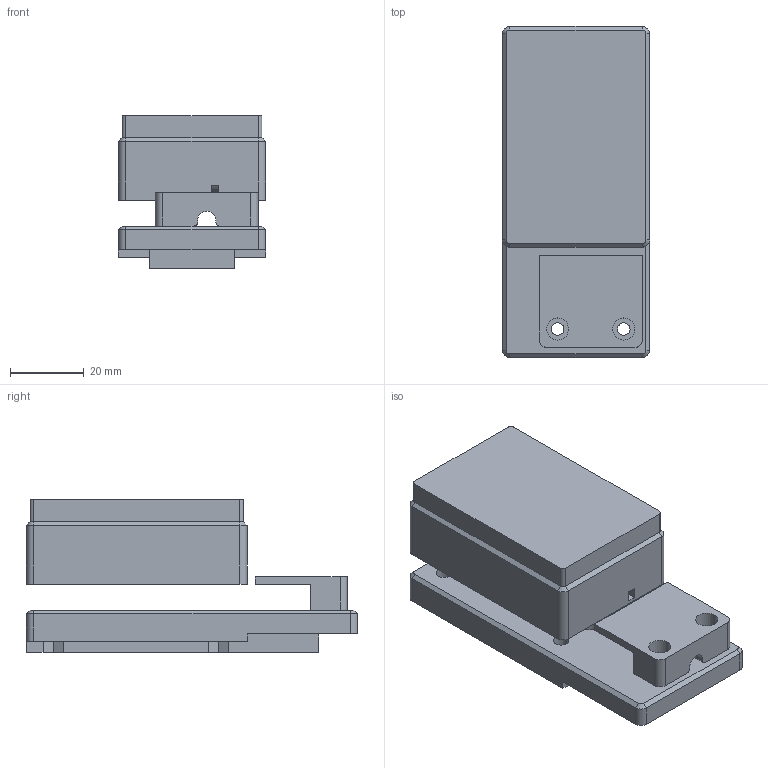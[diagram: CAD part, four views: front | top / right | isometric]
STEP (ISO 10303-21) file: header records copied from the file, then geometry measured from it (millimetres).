
FILE_DESCRIPTION(/* description */ (''),/* implementation_level */ '2;1');
FILE_NAME(/* name */ 'tool_sensor_v2.step',/* time_stamp */ '2026-08-04T07:21:11-07:00',/* author */ (''),/* organization */ (''),/* preprocessor_version */ 'ST-DEVELOPER v20.1',/* originating_system */ 'Autodesk Translation Framework v15.8.0.0',/* authorisation */ '');
FILE_SCHEMA (('AUTOMOTIVE_DESIGN { 1 0 10303 214 3 1 1 }'));
Length unit declared in the file: millimetre
Products named in the file (1): cnc_box_v2
Bounding box: 40 x 90 x 41.5 mm (x, y, z)
Volume: 80761.5 mm3; surface area: 35695.2 mm2
Topology: 5 solids, 5 shells, 238 faces, 625 edges, 410 vertices
Faces by surface type: plane 167, cylinder 62, cone 8, torus 1
Full cylindrical faces by diameter (mm): 3.2 x1, 3.4 x4, 4 x2, 4.2 x4, 5.5 x2, 6 x3, 8 x3, 8.17 x4, 8.2 x4, 9 x1, 10 x2
Entity records: 7444 total; most frequent: CARTESIAN_POINT 1306, DIRECTION 1252, ORIENTED_EDGE 1250, EDGE_CURVE 625, LINE 472, VECTOR 472, VERTEX_POINT 410, AXIS2_PLACEMENT_3D 390
